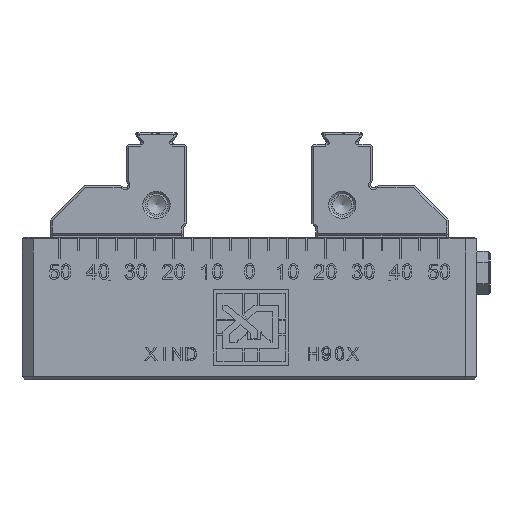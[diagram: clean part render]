
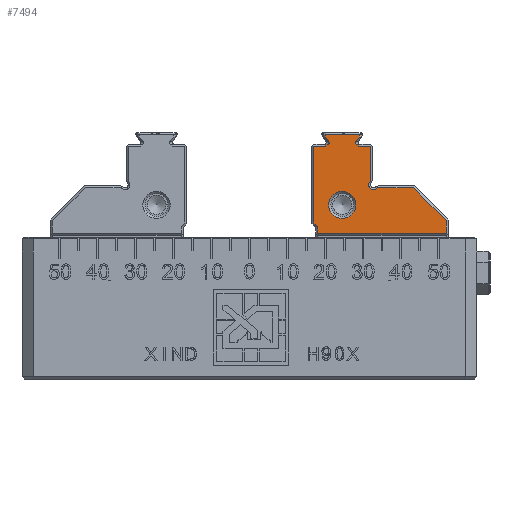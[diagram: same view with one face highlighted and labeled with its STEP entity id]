
A CAD part, left-side view. The second image highlights one B-rep face of the part: STEP entity #7494.
In plain terms, the highlighted planar face has unit normal (-1, 0, 0).
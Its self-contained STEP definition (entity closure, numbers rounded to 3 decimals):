
#1787=ELLIPSE('',#101028,0.566,0.4);
#1788=ELLIPSE('',#101029,0.566,0.4);
#7494=ADVANCED_FACE('',(#19885,#19886),#13080,.T.);
#13080=PLANE('',#101031);
#19885=FACE_BOUND('',#21164,.T.);
#19886=FACE_BOUND('',#21165,.T.);
#21164=EDGE_LOOP('',(#29018,#29019,#29020,#29021,#29022,#29023,#29024,#29025,
#29026,#29027,#29028,#29029,#29030,#29031,#29032,#29033,#29034,#29035,#29036,
#29037,#29038,#29039));
#21165=EDGE_LOOP('',(#29040));
#27589=CIRCLE('',#101027,1.3);
#27590=CIRCLE('',#101030,3.6);
#29018=ORIENTED_EDGE('',*,*,#66261,.T.);
#29019=ORIENTED_EDGE('',*,*,#66262,.T.);
#29020=ORIENTED_EDGE('',*,*,#66263,.T.);
#29021=ORIENTED_EDGE('',*,*,#66264,.T.);
#29022=ORIENTED_EDGE('',*,*,#66265,.T.);
#29023=ORIENTED_EDGE('',*,*,#66266,.T.);
#29024=ORIENTED_EDGE('',*,*,#66267,.F.);
#29025=ORIENTED_EDGE('',*,*,#66268,.F.);
#29026=ORIENTED_EDGE('',*,*,#66269,.F.);
#29027=ORIENTED_EDGE('',*,*,#66270,.F.);
#29028=ORIENTED_EDGE('',*,*,#66271,.T.);
#29029=ORIENTED_EDGE('',*,*,#66272,.T.);
#29030=ORIENTED_EDGE('',*,*,#66273,.T.);
#29031=ORIENTED_EDGE('',*,*,#66227,.T.);
#29032=ORIENTED_EDGE('',*,*,#66274,.T.);
#29033=ORIENTED_EDGE('',*,*,#66275,.T.);
#29034=ORIENTED_EDGE('',*,*,#66276,.T.);
#29035=ORIENTED_EDGE('',*,*,#66277,.T.);
#29036=ORIENTED_EDGE('',*,*,#66278,.T.);
#29037=ORIENTED_EDGE('',*,*,#66279,.T.);
#29038=ORIENTED_EDGE('',*,*,#66280,.T.);
#29039=ORIENTED_EDGE('',*,*,#66281,.T.);
#29040=ORIENTED_EDGE('',*,*,#66282,.F.);
#56979=VERTEX_POINT('',#132705);
#56980=VERTEX_POINT('',#132706);
#57012=VERTEX_POINT('',#132774);
#57013=VERTEX_POINT('',#132775);
#57014=VERTEX_POINT('',#132777);
#57015=VERTEX_POINT('',#132779);
#57016=VERTEX_POINT('',#132781);
#57017=VERTEX_POINT('',#132783);
#57018=VERTEX_POINT('',#132785);
#57019=VERTEX_POINT('',#132787);
#57020=VERTEX_POINT('',#132789);
#57021=VERTEX_POINT('',#132791);
#57022=VERTEX_POINT('',#132793);
#57023=VERTEX_POINT('',#132795);
#57024=VERTEX_POINT('',#132797);
#57025=VERTEX_POINT('',#132800);
#57026=VERTEX_POINT('',#132802);
#57027=VERTEX_POINT('',#132804);
#57028=VERTEX_POINT('',#132806);
#57029=VERTEX_POINT('',#132808);
#57030=VERTEX_POINT('',#132810);
#57031=VERTEX_POINT('',#132812);
#57032=VERTEX_POINT('',#132815);
#66227=EDGE_CURVE('',#56979,#56980,#80101,.T.);
#66261=EDGE_CURVE('',#57012,#57013,#80131,.T.);
#66262=EDGE_CURVE('',#57013,#57014,#27589,.T.);
#66263=EDGE_CURVE('',#57014,#57015,#80132,.T.);
#66264=EDGE_CURVE('',#57015,#57016,#80133,.T.);
#66265=EDGE_CURVE('',#57016,#57017,#80134,.T.);
#66266=EDGE_CURVE('',#57017,#57018,#80135,.T.);
#66267=EDGE_CURVE('',#57019,#57018,#1787,.T.);
#66268=EDGE_CURVE('',#57020,#57019,#80136,.T.);
#66269=EDGE_CURVE('',#57021,#57020,#80137,.T.);
#66270=EDGE_CURVE('',#57022,#57021,#80138,.T.);
#66271=EDGE_CURVE('',#57022,#57023,#80139,.T.);
#66272=EDGE_CURVE('',#57023,#57024,#80140,.T.);
#66273=EDGE_CURVE('',#57024,#56979,#1788,.T.);
#66274=EDGE_CURVE('',#56980,#57025,#80141,.T.);
#66275=EDGE_CURVE('',#57025,#57026,#80142,.T.);
#66276=EDGE_CURVE('',#57026,#57027,#80143,.T.);
#66277=EDGE_CURVE('',#57027,#57028,#80144,.T.);
#66278=EDGE_CURVE('',#57028,#57029,#80145,.T.);
#66279=EDGE_CURVE('',#57029,#57030,#80146,.T.);
#66280=EDGE_CURVE('',#57030,#57031,#80147,.T.);
#66281=EDGE_CURVE('',#57031,#57012,#80148,.T.);
#66282=EDGE_CURVE('',#57032,#57032,#27590,.T.);
#80101=LINE('',#132704,#90353);
#80131=LINE('',#132773,#90383);
#80132=LINE('',#132778,#90384);
#80133=LINE('',#132780,#90385);
#80134=LINE('',#132782,#90386);
#80135=LINE('',#132784,#90387);
#80136=LINE('',#132788,#90388);
#80137=LINE('',#132790,#90389);
#80138=LINE('',#132792,#90390);
#80139=LINE('',#132794,#90391);
#80140=LINE('',#132796,#90392);
#80141=LINE('',#132799,#90393);
#80142=LINE('',#132801,#90394);
#80143=LINE('',#132803,#90395);
#80144=LINE('',#132805,#90396);
#80145=LINE('',#132807,#90397);
#80146=LINE('',#132809,#90398);
#80147=LINE('',#132811,#90399);
#80148=LINE('',#132813,#90400);
#90353=VECTOR('',#107916,1.);
#90383=VECTOR('',#107958,1.);
#90384=VECTOR('',#107961,1.);
#90385=VECTOR('',#107962,1.);
#90386=VECTOR('',#107963,1.);
#90387=VECTOR('',#107964,1.);
#90388=VECTOR('',#107967,1.);
#90389=VECTOR('',#107968,1.);
#90390=VECTOR('',#107969,1.);
#90391=VECTOR('',#107970,1.);
#90392=VECTOR('',#107971,1.);
#90393=VECTOR('',#107974,1.);
#90394=VECTOR('',#107975,1.);
#90395=VECTOR('',#107976,1.);
#90396=VECTOR('',#107977,1.);
#90397=VECTOR('',#107978,1.);
#90398=VECTOR('',#107979,1.);
#90399=VECTOR('',#107980,1.);
#90400=VECTOR('',#107981,1.);
#101027=AXIS2_PLACEMENT_3D('',#132776,#107959,#107960);
#101028=AXIS2_PLACEMENT_3D('',#132786,#107965,#107966);
#101029=AXIS2_PLACEMENT_3D('',#132798,#107972,#107973);
#101030=AXIS2_PLACEMENT_3D('',#132814,#107982,#107983);
#101031=AXIS2_PLACEMENT_3D('',#132816,#107984,#107985);
#107916=DIRECTION('',(0.,1.,0.));
#107958=DIRECTION('',(0.,1.,0.));
#107959=DIRECTION('',(1.,0.,0.));
#107960=DIRECTION('',(0.,0.,-1.));
#107961=DIRECTION('',(0.,0.,1.));
#107962=DIRECTION('',(0.,1.,0.));
#107963=DIRECTION('',(0.,0.,1.));
#107964=DIRECTION('',(0.,1.,0.));
#107965=DIRECTION('',(-1.,0.,0.));
#107966=DIRECTION('',(0.,-1.,0.));
#107967=DIRECTION('',(0.,0.632,-0.775));
#107968=DIRECTION('',(0.,0.,-1.));
#107969=DIRECTION('',(0.,-1.,0.));
#107970=DIRECTION('',(0.,0.,-1.));
#107971=DIRECTION('',(0.,-0.632,-0.775));
#107972=DIRECTION('',(1.,0.,0.));
#107973=DIRECTION('',(0.,1.,0.));
#107974=DIRECTION('',(0.,0.,-1.));
#107975=DIRECTION('',(0.,1.,0.));
#107976=DIRECTION('',(0.,0.,-1.));
#107977=DIRECTION('',(0.,-0.707,-0.707));
#107978=DIRECTION('',(0.,0.,-1.));
#107979=DIRECTION('',(0.,-1.,0.));
#107980=DIRECTION('',(0.,0.,1.));
#107981=DIRECTION('',(0.,0.707,0.707));
#107982=DIRECTION('',(-1.,0.,0.));
#107983=DIRECTION('',(0.,0.,-1.));
#107984=DIRECTION('',(-1.,0.,0.));
#107985=DIRECTION('',(0.,0.,1.));
#132704=CARTESIAN_POINT('',(1676.052,370.636,601.9));
#132705=CARTESIAN_POINT('',(1676.052,363.118,601.9));
#132706=CARTESIAN_POINT('',(1676.052,363.436,601.9));
#132773=CARTESIAN_POINT('',(1676.052,353.636,590.4));
#132774=CARTESIAN_POINT('',(1676.052,340.343,590.4));
#132775=CARTESIAN_POINT('',(1676.052,349.811,590.4));
#132776=CARTESIAN_POINT('',(1676.052,350.836,591.2));
#132777=CARTESIAN_POINT('',(1676.052,351.636,592.225));
#132778=CARTESIAN_POINT('',(1676.052,351.636,601.4));
#132779=CARTESIAN_POINT('',(1676.052,351.636,601.4));
#132780=CARTESIAN_POINT('',(1676.052,356.836,601.4));
#132781=CARTESIAN_POINT('',(1676.052,354.836,601.4));
#132782=CARTESIAN_POINT('',(1676.052,354.836,536.9));
#132783=CARTESIAN_POINT('',(1676.052,354.836,601.9));
#132784=CARTESIAN_POINT('',(1676.052,370.636,601.9));
#132785=CARTESIAN_POINT('',(1676.052,355.154,601.9));
#132786=CARTESIAN_POINT('',(1676.052,355.154,602.3));
#132787=CARTESIAN_POINT('',(1676.052,355.644,602.5));
#132788=CARTESIAN_POINT('',(1676.052,386.378,564.859));
#132789=CARTESIAN_POINT('',(1676.052,354.636,603.735));
#132790=CARTESIAN_POINT('',(1676.052,354.636,604.9));
#132791=CARTESIAN_POINT('',(1676.052,354.636,604.4));
#132792=CARTESIAN_POINT('',(1676.052,356.912,604.4));
#132793=CARTESIAN_POINT('',(1676.052,363.636,604.4));
#132794=CARTESIAN_POINT('',(1676.052,363.636,604.9));
#132795=CARTESIAN_POINT('',(1676.052,363.636,603.735));
#132796=CARTESIAN_POINT('',(1676.052,331.894,564.859));
#132797=CARTESIAN_POINT('',(1676.052,362.628,602.5));
#132798=CARTESIAN_POINT('',(1676.052,363.118,602.3));
#132799=CARTESIAN_POINT('',(1676.052,363.436,536.9));
#132800=CARTESIAN_POINT('',(1676.052,363.436,601.4));
#132801=CARTESIAN_POINT('',(1676.052,366.636,601.4));
#132802=CARTESIAN_POINT('',(1676.052,366.636,601.4));
#132803=CARTESIAN_POINT('',(1676.052,366.636,578.4));
#132804=CARTESIAN_POINT('',(1676.052,366.636,581.107));
#132805=CARTESIAN_POINT('',(1676.052,365.782,580.254));
#132806=CARTESIAN_POINT('',(1676.052,365.636,580.107));
#132807=CARTESIAN_POINT('',(1676.052,365.636,536.9));
#132808=CARTESIAN_POINT('',(1676.052,365.636,578.4));
#132809=CARTESIAN_POINT('',(1676.052,331.636,578.4));
#132810=CARTESIAN_POINT('',(1676.052,331.636,578.4));
#132811=CARTESIAN_POINT('',(1676.052,331.636,579.9));
#132812=CARTESIAN_POINT('',(1676.052,331.636,581.693));
#132813=CARTESIAN_POINT('',(1676.052,341.989,592.046));
#132814=CARTESIAN_POINT('',(1676.052,359.136,585.9));
#132815=CARTESIAN_POINT('',(1676.052,359.136,582.3));
#132816=CARTESIAN_POINT('',(1676.052,370.636,536.9));
